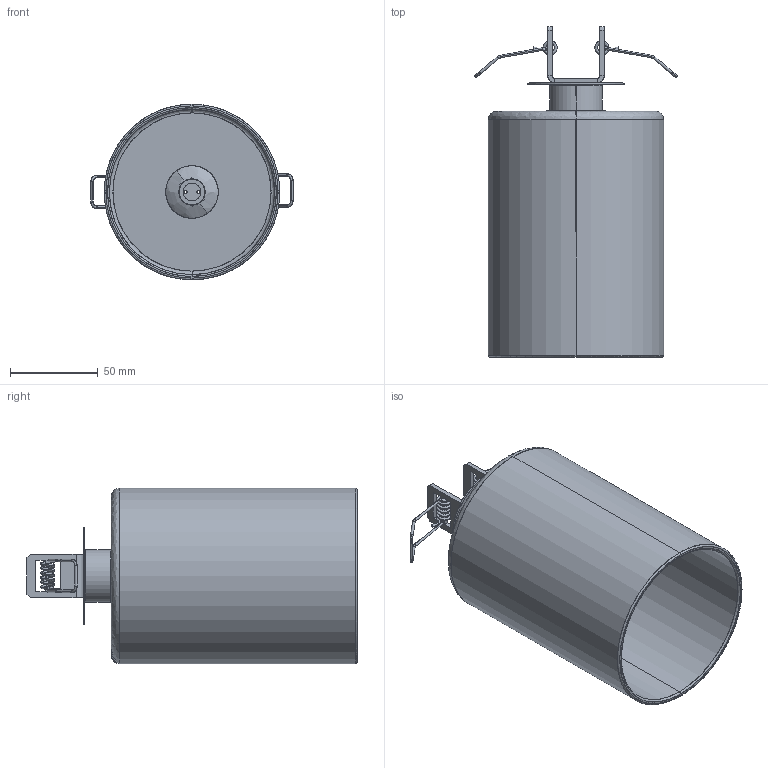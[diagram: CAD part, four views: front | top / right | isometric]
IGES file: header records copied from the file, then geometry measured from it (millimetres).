
Start section: SolidWorks IGES file using analytic representation for surfaces
Global section: file name: \\STORAGE\Tecnico Condiviso\1 FASCICOLI TECNICI\AXO DESIGN\AXO012 SPILLRAY LED INTEGRATO\DISEGNI\PL SPILLRAY\PLSPILIPXXCRINT-PER 3D.IGS; native system: SolidWorks 2024; preprocessor: SolidWorks 2024; author: tecnico3; date: 240527.184507; units: millimetre
Bounding box: 115.15 x 188 x 100 mm (x, y, z)
Surface area: 116839.7 mm2 (no closed solid volume)
Topology: 0 solids, 0 shells, 201 faces, 2242 edges, 2242 vertices
Faces by surface type: bspline 117, revolution 84
